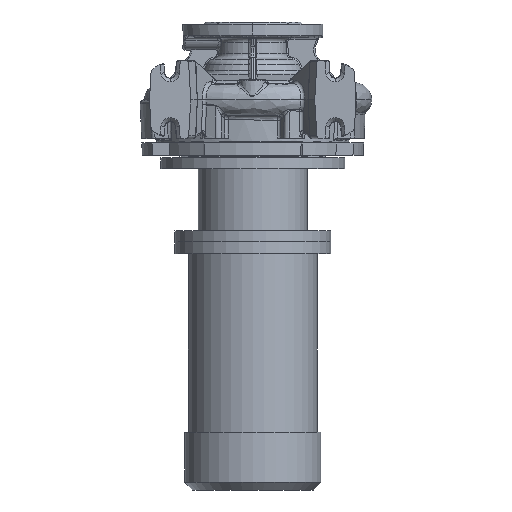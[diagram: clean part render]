
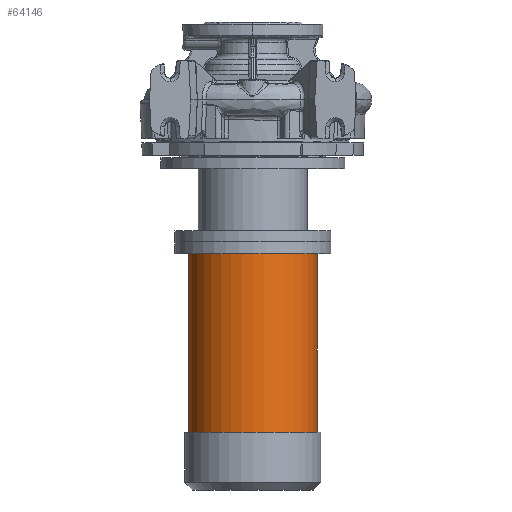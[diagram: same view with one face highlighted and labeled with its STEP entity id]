
A CAD part, front view. The second image highlights one B-rep face of the part: STEP entity #64146.
In plain terms, the highlighted cylindrical face has radius 82.5 mm (diameter 165 mm), a partial arc.
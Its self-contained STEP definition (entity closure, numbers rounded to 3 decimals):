
#87 = AXIS2_PLACEMENT_3D ( 'NONE', #21295, #81393, #69167 ) ;
#2358 = VERTEX_POINT ( 'NONE', #26857 ) ;
#3773 = EDGE_CURVE ( 'NONE', #53574, #20986, #60198, .T. ) ;
#5782 = CYLINDRICAL_SURFACE ( 'NONE', #49348, 82.5 ) ;
#8633 = DIRECTION ( 'NONE',  ( 0., 0., -1. ) ) ;
#10256 = EDGE_CURVE ( 'NONE', #53574, #79784, #11945, .T. ) ;
#11945 = CIRCLE ( 'NONE', #28567, 82.5 ) ;
#12361 = EDGE_CURVE ( 'NONE', #20986, #2358, #82920, .T. ) ;
#16724 = DIRECTION ( 'NONE',  ( 0., 0., -1. ) ) ;
#20986 = VERTEX_POINT ( 'NONE', #37489 ) ;
#21295 = CARTESIAN_POINT ( 'NONE',  ( 0., 0., -426.8 ) ) ;
#25478 = CARTESIAN_POINT ( 'NONE',  ( -82.5, 0., -197.3 ) ) ;
#26723 = EDGE_CURVE ( 'NONE', #79784, #2358, #68186, .T. ) ;
#26857 = CARTESIAN_POINT ( 'NONE',  ( -82.5, 0., -426.8 ) ) ;
#27063 = CARTESIAN_POINT ( 'NONE',  ( 82.5, 0., -500.8 ) ) ;
#28567 = AXIS2_PLACEMENT_3D ( 'NONE', #74302, #69773, #82310 ) ;
#37489 = CARTESIAN_POINT ( 'NONE',  ( 82.5, 0., -426.8 ) ) ;
#39967 = FACE_OUTER_BOUND ( 'NONE', #43737, .T. ) ;
#42331 = CARTESIAN_POINT ( 'NONE',  ( 82.5, 0., -197.3 ) ) ;
#43737 = EDGE_LOOP ( 'NONE', ( #60856, #49821, #64069, #82707 ) ) ;
#45895 = VECTOR ( 'NONE', #8633, 1000. ) ;
#47435 = DIRECTION ( 'NONE',  ( 0., 0., -1. ) ) ;
#49348 = AXIS2_PLACEMENT_3D ( 'NONE', #72426, #16724, #64419 ) ;
#49821 = ORIENTED_EDGE ( 'NONE', *, *, #10256, .T. ) ;
#53574 = VERTEX_POINT ( 'NONE', #42331 ) ;
#60198 = LINE ( 'NONE', #27063, #74028 ) ;
#60856 = ORIENTED_EDGE ( 'NONE', *, *, #3773, .F. ) ;
#64069 = ORIENTED_EDGE ( 'NONE', *, *, #26723, .T. ) ;
#64146 = ADVANCED_FACE ( 'NONE', ( #39967 ), #5782, .T. ) ;
#64419 = DIRECTION ( 'NONE',  ( -1., 0., 0. ) ) ;
#68186 = LINE ( 'NONE', #69416, #45895 ) ;
#69167 = DIRECTION ( 'NONE',  ( -1., 0., 0. ) ) ;
#69416 = CARTESIAN_POINT ( 'NONE',  ( -82.5, 0., -500.8 ) ) ;
#69773 = DIRECTION ( 'NONE',  ( 0., 0., -1. ) ) ;
#72426 = CARTESIAN_POINT ( 'NONE',  ( 0., 0., -500.8 ) ) ;
#74028 = VECTOR ( 'NONE', #47435, 1000. ) ;
#74302 = CARTESIAN_POINT ( 'NONE',  ( 0., 0., -197.3 ) ) ;
#79784 = VERTEX_POINT ( 'NONE', #25478 ) ;
#81393 = DIRECTION ( 'NONE',  ( 0., 0., -1. ) ) ;
#82310 = DIRECTION ( 'NONE',  ( -1., 0., 0. ) ) ;
#82707 = ORIENTED_EDGE ( 'NONE', *, *, #12361, .F. ) ;
#82920 = CIRCLE ( 'NONE', #87, 82.5 ) ;
